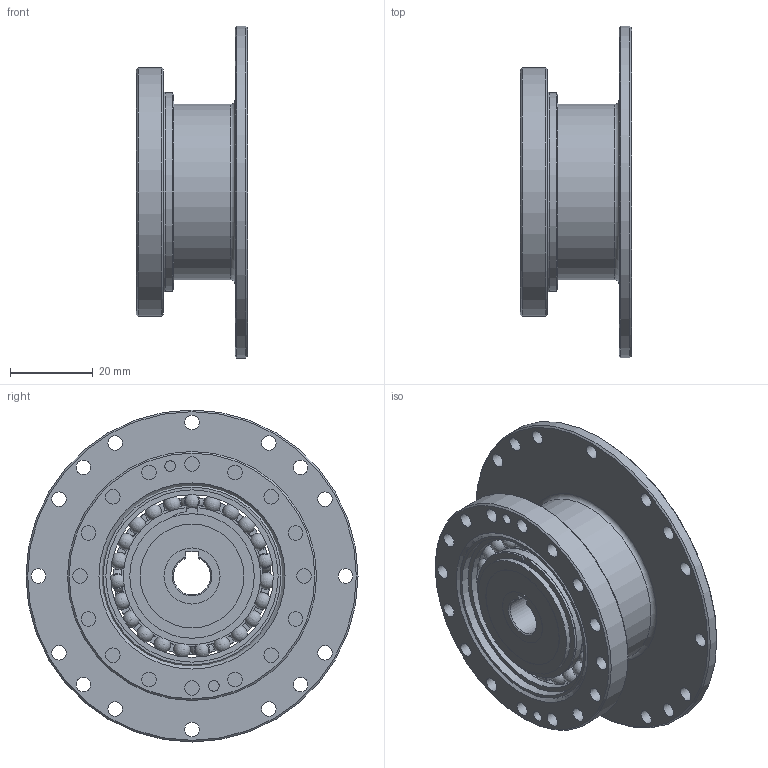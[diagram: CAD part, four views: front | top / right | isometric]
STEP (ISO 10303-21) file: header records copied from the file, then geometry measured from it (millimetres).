
FILE_DESCRIPTION(/* description */ (''),/* implementation_level */ '2;1');
FILE_NAME(/* name */ 'Getriebeset_HTG_43_FK.stp',/* time_stamp */ '2026-03-09T10:57:16+01:00',/* author */ (''),/* organization */ (''),/* preprocessor_version */ 'ST-DEVELOPER v19.4',/* originating_system */ 'SIEMENS PLM Software NX2212.9120',/* authorisation */ '');
FILE_SCHEMA (('AUTOMOTIVE_DESIGN { 1 0 10303 214 3 1 1 1 }'));
Length unit declared in the file: millimetre
Products named in the file (1): Getriebeset_HTG_43_FK
Bounding box: 26.75 x 80 x 80 mm (x, y, z)
Volume: 27247.7 mm3; surface area: 30582.4 mm2
Topology: 30 solids, 30 shells, 267 faces, 750 edges, 505 vertices
Faces by surface type: cylinder 97, plane 77, torus 44, sphere 35, cone 12, bspline 2
Full cylindrical faces by diameter (mm): 2.6 x2, 3.5 x32, 13.5 x1, 25 x1, 28.88 x1, 30 x3, 32.9 x3, 37 x1, 39.2 x2, 41.5 x2, 42.3 x1, 43 x1, 43.8 x1, 48 x1, 60 x2, 80 x1
Entity records: 10180 total; most frequent: CARTESIAN_POINT 3926, DIRECTION 1177, ORIENTED_EDGE 1144, EDGE_CURVE 572, AXIS2_PLACEMENT_3D 541, VERTEX_POINT 446, EDGE_LOOP 405, FACE_BOUND 277
